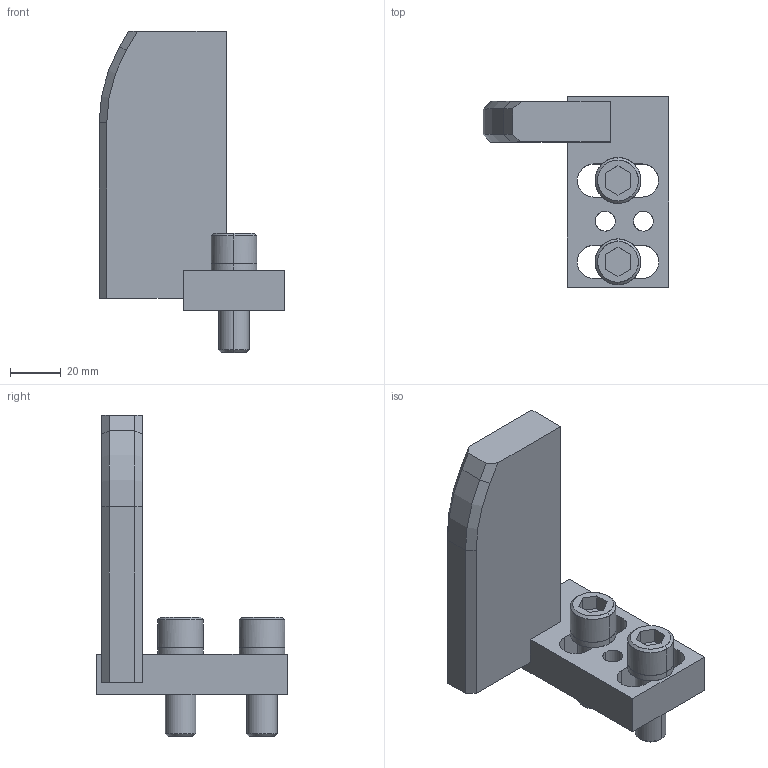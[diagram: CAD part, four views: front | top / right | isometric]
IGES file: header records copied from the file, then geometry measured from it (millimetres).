
Global section: file name: E:\UnigraphicsGraphicData\MISUMI_PRESS-PARTS\IGES\3d_ngwbr-110-20-s50-m12_01594_r00.igs; native system: NX V5.0; preprocessor: UGS NX IGES V5.0; author: MISUMI; date: 20110105.162114; units: millimetre
Bounding box: 73 x 75 x 126.5 mm (x, y, z)
Surface area: 33024.8 mm2 (no closed solid volume)
Topology: 0 solids, 0 shells, 104 faces, 666 edges, 666 vertices
Faces by surface type: bspline 104
